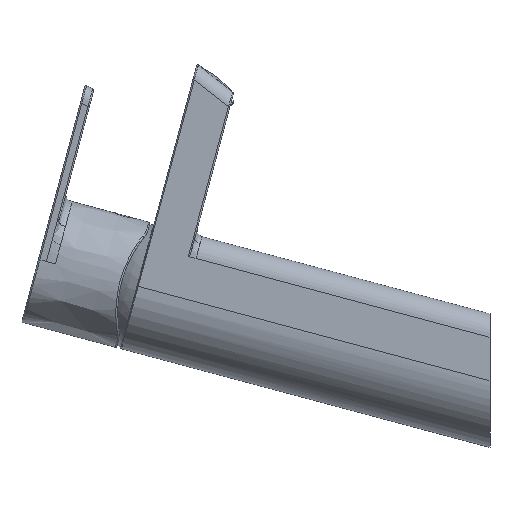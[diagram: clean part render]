
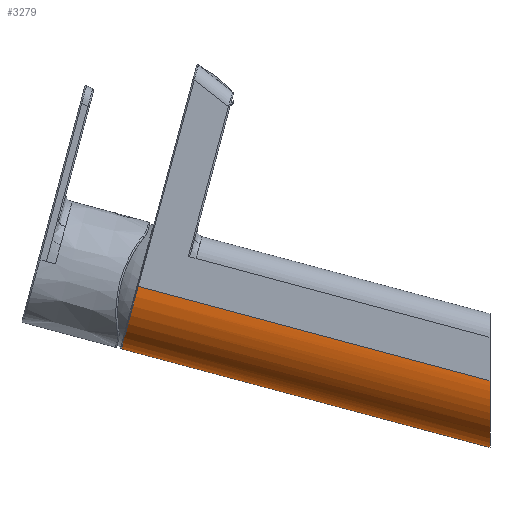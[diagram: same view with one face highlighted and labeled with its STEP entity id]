
A CAD part, left-side view. The second image highlights one B-rep face of the part: STEP entity #3279.
In plain terms, the highlighted cylindrical face has radius 24.25 mm (diameter 48.5 mm), a partial arc.
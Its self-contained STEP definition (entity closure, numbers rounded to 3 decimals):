
#166 = CARTESIAN_POINT ( 'NONE',  ( 23.474, 133.766, 29.333 ) ) ;
#208 = EDGE_CURVE ( 'NONE', #757, #3953, #546, .T. ) ;
#546 =( BOUNDED_CURVE ( )  B_SPLINE_CURVE ( 3, ( #7210, #9030, #4316, #2248 ),
 .UNSPECIFIED., .F., .T. ) 
 B_SPLINE_CURVE_WITH_KNOTS ( ( 4, 4 ),
 ( 1.571, 4.712 ),
 .UNSPECIFIED. ) 
 CURVE ( )  GEOMETRIC_REPRESENTATION_ITEM ( )  RATIONAL_B_SPLINE_CURVE ( ( 1., 0.333, 0.333, 1. ) ) 
 REPRESENTATION_ITEM ( '' )  );
#757 = VERTEX_POINT ( 'NONE', #9178 ) ;
#801 = CARTESIAN_POINT ( 'NONE',  ( 24.25, -9.659, -2.588 ) ) ;
#1096 = CARTESIAN_POINT ( 'NONE',  ( -23.474, 133.766, 29.333 ) ) ;
#1200 = CARTESIAN_POINT ( 'NONE',  ( 0., 138.415, 11.983 ) ) ;
#1359 = CARTESIAN_POINT ( 'NONE',  ( 24.25, 132.139, 35.406 ) ) ;
#1903 = DIRECTION ( 'NONE',  ( 0., 0.966, 0.259 ) ) ;
#1928 = CARTESIAN_POINT ( 'NONE',  ( -7.814, 138.094, 13.179 ) ) ;
#2047 = CARTESIAN_POINT ( 'NONE',  ( -12.153, 137.585, 15.079 ) ) ;
#2082 = EDGE_LOOP ( 'NONE', ( #4414, #8958, #3786, #7072, #10289 ) ) ;
#2090 = CARTESIAN_POINT ( 'NONE',  ( 0., 138.415, 11.983 ) ) ;
#2095 = VERTEX_POINT ( 'NONE', #6394 ) ;
#2248 = CARTESIAN_POINT ( 'NONE',  ( -24.25, 0., 0. ) ) ;
#2435 = B_SPLINE_CURVE_WITH_KNOTS ( 'NONE', 3,
 ( #1200, #3938, #11530, #6915, #3092, #2976, #4890, #7858, #10693, #11568, #4062, #5021, #5863, #6953, #166, #5985, #11611, #3056 ),
 .UNSPECIFIED., .F., .F.,
 ( 4, 2, 2, 2, 2, 2, 2, 2, 4 ),
 ( 0., 0.125, 0.25, 0.375, 0.5, 0.625, 0.75, 0.875, 1. ),
 .UNSPECIFIED. ) ;
#2976 = CARTESIAN_POINT ( 'NONE',  ( 10.746, 137.78, 14.352 ) ) ;
#3056 = CARTESIAN_POINT ( 'NONE',  ( 24.25, 132.139, 35.406 ) ) ;
#3092 = CARTESIAN_POINT ( 'NONE',  ( 7.814, 138.094, 13.179 ) ) ;
#3279 = ADVANCED_FACE ( 'NONE', ( #3796 ), #5592, .T. ) ;
#3370 = EDGE_CURVE ( 'NONE', #2095, #5633, #2435, .T. ) ;
#3443 = VECTOR ( 'NONE', #10736, 1000. ) ;
#3741 = DIRECTION ( 'NONE',  ( 0., -0.966, -0.259 ) ) ;
#3786 = ORIENTED_EDGE ( 'NONE', *, *, #208, .T. ) ;
#3796 = FACE_OUTER_BOUND ( 'NONE', #2082, .T. ) ;
#3840 = CARTESIAN_POINT ( 'NONE',  ( -24.094, 132.96, 32.34 ) ) ;
#3882 = CARTESIAN_POINT ( 'NONE',  ( -16.025, 136.867, 17.759 ) ) ;
#3938 = CARTESIAN_POINT ( 'NONE',  ( 1.587, 138.415, 11.983 ) ) ;
#3953 = VERTEX_POINT ( 'NONE', #6052 ) ;
#4011 = CARTESIAN_POINT ( 'NONE',  ( -24.25, 132.139, 35.406 ) ) ;
#4062 = CARTESIAN_POINT ( 'NONE',  ( 19.281, 135.967, 21.118 ) ) ;
#4316 = CARTESIAN_POINT ( 'NONE',  ( -24.25, 0., -50.211 ) ) ;
#4414 = ORIENTED_EDGE ( 'NONE', *, *, #3370, .T. ) ;
#4751 = LINE ( 'NONE', #801, #5657 ) ;
#4753 = CARTESIAN_POINT ( 'NONE',  ( -18.27, 136.286, 19.927 ) ) ;
#4829 = VERTEX_POINT ( 'NONE', #4011 ) ;
#4871 = CARTESIAN_POINT ( 'NONE',  ( -24.25, 132.139, 35.406 ) ) ;
#4890 = CARTESIAN_POINT ( 'NONE',  ( 12.153, 137.585, 15.079 ) ) ;
#5021 = CARTESIAN_POINT ( 'NONE',  ( 21.045, 135.284, 23.668 ) ) ;
#5592 = CYLINDRICAL_SURFACE ( 'NONE', #11155, 24.25 ) ;
#5633 = VERTEX_POINT ( 'NONE', #1359 ) ;
#5657 = VECTOR ( 'NONE', #3741, 1000. ) ;
#5724 = CARTESIAN_POINT ( 'NONE',  ( -6.288, 138.214, 12.732 ) ) ;
#5766 = CARTESIAN_POINT ( 'NONE',  ( -10.746, 137.78, 14.352 ) ) ;
#5863 = CARTESIAN_POINT ( 'NONE',  ( 21.797, 134.92, 25.026 ) ) ;
#5883 = CARTESIAN_POINT ( 'NONE',  ( -21.045, 135.284, 23.668 ) ) ;
#5985 = CARTESIAN_POINT ( 'NONE',  ( 24.094, 132.96, 32.34 ) ) ;
#6052 = CARTESIAN_POINT ( 'NONE',  ( -24.25, 0., 0. ) ) ;
#6206 = CARTESIAN_POINT ( 'NONE',  ( -24.25, -9.659, -2.588 ) ) ;
#6394 = CARTESIAN_POINT ( 'NONE',  ( 0., 138.415, 11.983 ) ) ;
#6708 = DIRECTION ( 'NONE',  ( 0., -0.259, 0.966 ) ) ;
#6811 = CARTESIAN_POINT ( 'NONE',  ( -24.25, 132.549, 33.873 ) ) ;
#6915 = CARTESIAN_POINT ( 'NONE',  ( 6.288, 138.214, 12.732 ) ) ;
#6953 = CARTESIAN_POINT ( 'NONE',  ( 23.011, 134.161, 27.859 ) ) ;
#7072 = ORIENTED_EDGE ( 'NONE', *, *, #8453, .T. ) ;
#7210 = CARTESIAN_POINT ( 'NONE',  ( 24.25, 0., 0. ) ) ;
#7755 = CARTESIAN_POINT ( 'NONE',  ( -14.792, 137.129, 16.782 ) ) ;
#7798 = CARTESIAN_POINT ( 'NONE',  ( -1.587, 138.415, 11.983 ) ) ;
#7858 = CARTESIAN_POINT ( 'NONE',  ( 14.792, 137.129, 16.782 ) ) ;
#8453 = EDGE_CURVE ( 'NONE', #3953, #4829, #10904, .T. ) ;
#8711 = CARTESIAN_POINT ( 'NONE',  ( -3.174, 138.375, 12.134 ) ) ;
#8958 = ORIENTED_EDGE ( 'NONE', *, *, #11932, .T. ) ;
#9030 = CARTESIAN_POINT ( 'NONE',  ( 24.25, 0., -50.211 ) ) ;
#9178 = CARTESIAN_POINT ( 'NONE',  ( 24.25, 0., 0. ) ) ;
#9602 = CARTESIAN_POINT ( 'NONE',  ( -21.797, 134.92, 25.026 ) ) ;
#10289 = ORIENTED_EDGE ( 'NONE', *, *, #10858, .T. ) ;
#10412 = CARTESIAN_POINT ( 'NONE',  ( 0., -9.659, -2.588 ) ) ;
#10475 = CARTESIAN_POINT ( 'NONE',  ( -23.011, 134.161, 27.859 ) ) ;
#10693 = CARTESIAN_POINT ( 'NONE',  ( 16.025, 136.867, 17.759 ) ) ;
#10736 = DIRECTION ( 'NONE',  ( 0., 0.966, 0.259 ) ) ;
#10858 = EDGE_CURVE ( 'NONE', #4829, #2095, #11453, .T. ) ;
#10904 = LINE ( 'NONE', #6206, #3443 ) ;
#11155 = AXIS2_PLACEMENT_3D ( 'NONE', #10412, #1903, #6708 ) ;
#11453 = B_SPLINE_CURVE_WITH_KNOTS ( 'NONE', 3,
 ( #4871, #6811, #3840, #1096, #10475, #9602, #5883, #11513, #4753, #3882, #7755, #2047, #5766, #1928, #5724, #8711, #7798, #2090 ),
 .UNSPECIFIED., .F., .F.,
 ( 4, 2, 2, 2, 2, 2, 2, 2, 4 ),
 ( 0., 0.125, 0.25, 0.375, 0.5, 0.625, 0.75, 0.875, 1. ),
 .UNSPECIFIED. ) ;
#11513 = CARTESIAN_POINT ( 'NONE',  ( -19.281, 135.967, 21.118 ) ) ;
#11530 = CARTESIAN_POINT ( 'NONE',  ( 3.174, 138.375, 12.134 ) ) ;
#11568 = CARTESIAN_POINT ( 'NONE',  ( 18.27, 136.286, 19.927 ) ) ;
#11611 = CARTESIAN_POINT ( 'NONE',  ( 24.25, 132.549, 33.873 ) ) ;
#11932 = EDGE_CURVE ( 'NONE', #5633, #757, #4751, .T. ) ;
